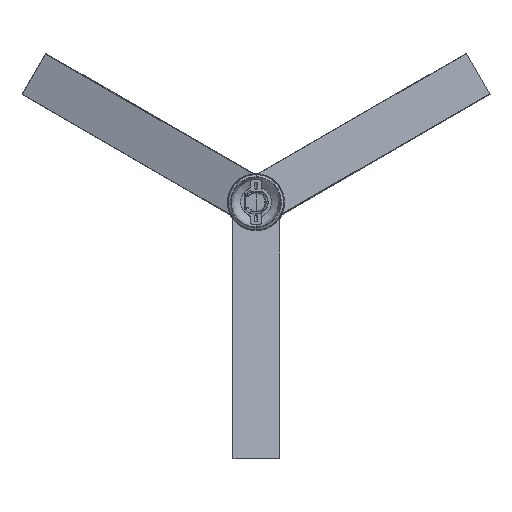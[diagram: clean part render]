
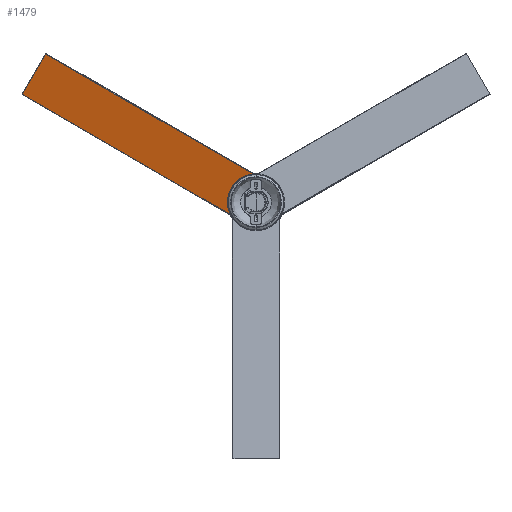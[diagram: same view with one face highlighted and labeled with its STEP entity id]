
A CAD part, top view. The second image highlights one B-rep face of the part: STEP entity #1479.
In plain terms, the highlighted planar face has unit normal (-0.113, -0.195, 0.974).
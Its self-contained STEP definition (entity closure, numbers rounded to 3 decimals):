
#1248=FACE_BOUND('',#1997,.T.);
#1249=FACE_BOUND('',#1998,.T.);
#1250=FACE_BOUND('',#1999,.T.);
#1479=ADVANCED_FACE('',(#1727,#1248,#1249,#1250),#5434,.T.);
#1727=FACE_OUTER_BOUND('',#1996,.T.);
#1996=EDGE_LOOP('',(#3189,#3190,#3191,#3192,#3193,#3194));
#1997=EDGE_LOOP('',(#3195,#3196));
#1998=EDGE_LOOP('',(#3197,#3198));
#1999=EDGE_LOOP('',(#3199,#3200));
#3189=ORIENTED_EDGE('',*,*,#3943,.T.);
#3190=ORIENTED_EDGE('',*,*,#3944,.T.);
#3191=ORIENTED_EDGE('',*,*,#3945,.T.);
#3192=ORIENTED_EDGE('',*,*,#3924,.T.);
#3193=ORIENTED_EDGE('',*,*,#3946,.T.);
#3194=ORIENTED_EDGE('',*,*,#3947,.T.);
#3195=ORIENTED_EDGE('',*,*,#3940,.T.);
#3196=ORIENTED_EDGE('',*,*,#3941,.T.);
#3197=ORIENTED_EDGE('',*,*,#3934,.T.);
#3198=ORIENTED_EDGE('',*,*,#3935,.T.);
#3199=ORIENTED_EDGE('',*,*,#3928,.T.);
#3200=ORIENTED_EDGE('',*,*,#3929,.T.);
#3924=EDGE_CURVE('',#5226,#5228,#4207,.T.);
#3928=EDGE_CURVE('',#5230,#5232,#4209,.T.);
#3929=EDGE_CURVE('',#5232,#5230,#4210,.T.);
#3934=EDGE_CURVE('',#5234,#5236,#4213,.T.);
#3935=EDGE_CURVE('',#5236,#5234,#4214,.T.);
#3940=EDGE_CURVE('',#5238,#5240,#4217,.T.);
#3941=EDGE_CURVE('',#5240,#5238,#4218,.T.);
#3943=EDGE_CURVE('',#5241,#5242,#4831,.T.);
#3944=EDGE_CURVE('',#5242,#5243,#4832,.T.);
#3945=EDGE_CURVE('',#5243,#5226,#4833,.T.);
#3946=EDGE_CURVE('',#5228,#5244,#4834,.T.);
#3947=EDGE_CURVE('',#5244,#5241,#4835,.T.);
#4207=TRIMMED_CURVE($,#4401,(#12422),(#12423),.T.,.CARTESIAN.);
#4209=TRIMMED_CURVE($,#4403,(#12432),(#12433),.T.,.CARTESIAN.);
#4210=TRIMMED_CURVE($,#4404,(#12435),(#12436),.T.,.CARTESIAN.);
#4213=TRIMMED_CURVE($,#4407,(#12448),(#12449),.T.,.CARTESIAN.);
#4214=TRIMMED_CURVE($,#4408,(#12451),(#12452),.T.,.CARTESIAN.);
#4217=TRIMMED_CURVE($,#4411,(#12464),(#12465),.T.,.CARTESIAN.);
#4218=TRIMMED_CURVE($,#4412,(#12467),(#12468),.T.,.CARTESIAN.);
#4401=CIRCLE('',#5972,53.78);
#4403=CIRCLE('',#5974,2.5);
#4404=CIRCLE('',#5975,2.5);
#4407=CIRCLE('',#5978,2.5);
#4408=CIRCLE('',#5979,2.5);
#4411=CIRCLE('',#5982,2.5);
#4412=CIRCLE('',#5983,2.5);
#4831=B_SPLINE_CURVE_WITH_KNOTS('',1,(#12472,#12473),.UNSPECIFIED.,.F.,
 .F.,(2,2),(0.,123.),.UNSPECIFIED.);
#4832=B_SPLINE_CURVE_WITH_KNOTS('',1,(#12474,#12475),.UNSPECIFIED.,.F.,
 .F.,(2,2),(0.,630.),.UNSPECIFIED.);
#4833=B_SPLINE_CURVE_WITH_KNOTS('',1,(#12476,#12477),.UNSPECIFIED.,.F.,
 .F.,(2,2),(0.,16.315),.UNSPECIFIED.);
#4834=B_SPLINE_CURVE_WITH_KNOTS('',1,(#12478,#12479),.UNSPECIFIED.,.F.,
 .F.,(2,2),(0.,14.435),.UNSPECIFIED.);
#4835=B_SPLINE_CURVE_WITH_KNOTS('',1,(#12480,#12481),.UNSPECIFIED.,.F.,
 .F.,(2,2),(0.,630.),.UNSPECIFIED.);
#5226=VERTEX_POINT('',#12383);
#5228=VERTEX_POINT('',#12385);
#5230=VERTEX_POINT('',#12387);
#5232=VERTEX_POINT('',#12389);
#5234=VERTEX_POINT('',#12391);
#5236=VERTEX_POINT('',#12393);
#5238=VERTEX_POINT('',#12395);
#5240=VERTEX_POINT('',#12397);
#5241=VERTEX_POINT('',#12398);
#5242=VERTEX_POINT('',#12399);
#5243=VERTEX_POINT('',#12400);
#5244=VERTEX_POINT('',#12401);
#5434=PLANE('',#5960);
#5960=AXIS2_PLACEMENT_3D('',#12371,#6522,$);
#5972=AXIS2_PLACEMENT_3D($,#12421,#6535,#6536);
#5974=AXIS2_PLACEMENT_3D($,#12431,#6539,#6540);
#5975=AXIS2_PLACEMENT_3D($,#12434,#6541,#6542);
#5978=AXIS2_PLACEMENT_3D($,#12447,#6547,#6548);
#5979=AXIS2_PLACEMENT_3D($,#12450,#6549,#6550);
#5982=AXIS2_PLACEMENT_3D($,#12463,#6555,#6556);
#5983=AXIS2_PLACEMENT_3D($,#12466,#6557,#6558);
#6522=DIRECTION('',(-0.112,-0.195,0.974));
#6535=DIRECTION('',(0.112,0.195,-0.974));
#6536=DIRECTION('',(-0.863,-0.467,-0.193));
#6539=DIRECTION('',(0.112,0.195,-0.974));
#6540=DIRECTION('',(0.487,0.844,0.225));
#6541=DIRECTION('',(0.112,0.195,-0.974));
#6542=DIRECTION('',(-0.487,-0.844,-0.225));
#6547=DIRECTION('',(0.112,0.195,-0.974));
#6548=DIRECTION('',(0.487,0.844,0.225));
#6549=DIRECTION('',(0.112,0.195,-0.974));
#6550=DIRECTION('',(-0.487,-0.844,-0.225));
#6555=DIRECTION('',(0.112,0.195,-0.974));
#6556=DIRECTION('',(0.487,0.844,0.225));
#6557=DIRECTION('',(0.112,0.195,-0.974));
#6558=DIRECTION('',(-0.487,-0.844,-0.225));
#12371=CARTESIAN_POINT('',(613.444,26.145,-47.746));
#12383=CARTESIAN_POINT('',(1437.101,-58.116,30.485));
#12385=CARTESIAN_POINT('',(1482.044,19.727,51.236));
#12387=CARTESIAN_POINT('',(1468.511,30.859,51.9));
#12389=CARTESIAN_POINT('',(1466.076,26.64,50.775));
#12391=CARTESIAN_POINT('',(1428.866,1.644,41.483));
#12393=CARTESIAN_POINT('',(1426.43,-2.575,40.358));
#12395=CARTESIAN_POINT('',(1423.557,-47.249,31.094));
#12397=CARTESIAN_POINT('',(1421.121,-51.469,29.969));
#12398=CARTESIAN_POINT('',(943.48,346.908,54.484));
#12399=CARTESIAN_POINT('',(883.556,243.117,26.815));
#12400=CARTESIAN_POINT('',(1429.152,-71.883,26.815));
#12401=CARTESIAN_POINT('',(1489.076,31.908,54.484));
#12421=CARTESIAN_POINT('',(1483.522,-33.022,40.861));
#12422=CARTESIAN_POINT('',(1437.101,-58.116,30.485));
#12423=CARTESIAN_POINT('',(1482.044,19.727,51.236));
#12431=CARTESIAN_POINT('',(1467.293,28.749,51.338));
#12432=CARTESIAN_POINT('',(1468.511,30.859,51.9));
#12433=CARTESIAN_POINT('',(1466.076,26.64,50.775));
#12434=CARTESIAN_POINT('',(1467.293,28.749,51.338));
#12435=CARTESIAN_POINT('',(1466.076,26.64,50.775));
#12436=CARTESIAN_POINT('',(1468.511,30.859,51.9));
#12447=CARTESIAN_POINT('',(1427.648,-0.465,40.92));
#12448=CARTESIAN_POINT('',(1428.866,1.644,41.483));
#12449=CARTESIAN_POINT('',(1426.43,-2.575,40.358));
#12450=CARTESIAN_POINT('',(1427.648,-0.465,40.92));
#12451=CARTESIAN_POINT('',(1426.43,-2.575,40.358));
#12452=CARTESIAN_POINT('',(1428.866,1.644,41.483));
#12463=CARTESIAN_POINT('',(1422.339,-49.359,30.532));
#12464=CARTESIAN_POINT('',(1423.557,-47.249,31.094));
#12465=CARTESIAN_POINT('',(1421.121,-51.469,29.969));
#12466=CARTESIAN_POINT('',(1422.339,-49.359,30.532));
#12467=CARTESIAN_POINT('',(1421.121,-51.469,29.969));
#12468=CARTESIAN_POINT('',(1423.557,-47.249,31.094));
#12472=CARTESIAN_POINT('',(943.48,346.908,54.484));
#12473=CARTESIAN_POINT('',(883.556,243.117,26.815));
#12474=CARTESIAN_POINT('',(883.556,243.117,26.815));
#12475=CARTESIAN_POINT('',(1429.152,-71.883,26.815));
#12476=CARTESIAN_POINT('',(1429.152,-71.883,26.815));
#12477=CARTESIAN_POINT('',(1437.101,-58.116,30.485));
#12478=CARTESIAN_POINT('',(1482.044,19.727,51.236));
#12479=CARTESIAN_POINT('',(1489.076,31.908,54.484));
#12480=CARTESIAN_POINT('',(1489.076,31.908,54.484));
#12481=CARTESIAN_POINT('',(943.48,346.908,54.484));
